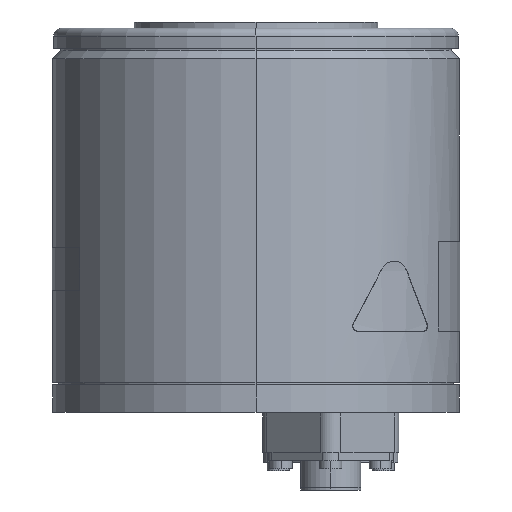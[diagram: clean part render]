
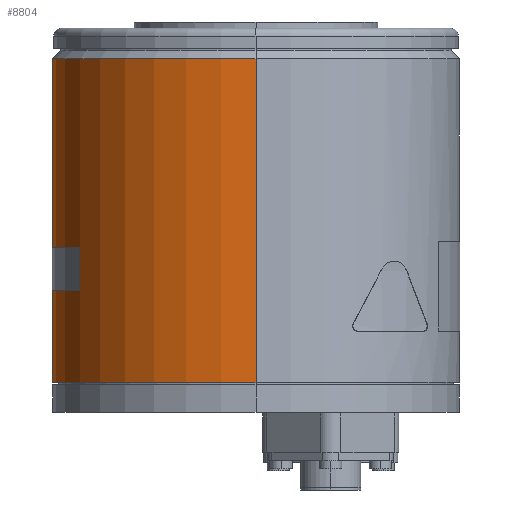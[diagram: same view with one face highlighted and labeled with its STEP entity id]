
A CAD part, left-side view. The second image highlights one B-rep face of the part: STEP entity #8804.
In plain terms, the highlighted cylindrical face has radius 50 mm (diameter 100 mm), a partial arc.
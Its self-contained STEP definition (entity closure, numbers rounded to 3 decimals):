
#37 = AXIS2_PLACEMENT_3D ( 'NONE', #5570, #5727, #5726 ) ;
#44 = EDGE_CURVE ( 'NONE', #5723, #5630, #504, .T. ) ;
#504 = CIRCLE ( 'NONE', #37, 50. ) ;
#590 = EDGE_LOOP ( 'NONE', ( #8637, #8638, #8639, #8635 ) ) ;
#593 = EDGE_LOOP ( 'NONE', ( #8641, #8642, #8640, #8636 ) ) ;
#1679 = DIRECTION ( 'NONE',  ( 0., 0., -1. ) ) ;
#1759 = CARTESIAN_POINT ( 'NONE',  ( 25., 43.301, 0. ) ) ;
#3077 = DIRECTION ( 'NONE',  ( 1., 0., 0. ) ) ;
#3081 = CARTESIAN_POINT ( 'NONE',  ( 0., 0., 40.5 ) ) ;
#3085 = DIRECTION ( 'NONE',  ( 0., 0., -1. ) ) ;
#3254 = CARTESIAN_POINT ( 'NONE',  ( -25., 43.301, 30. ) ) ;
#3272 = CARTESIAN_POINT ( 'NONE',  ( 50., 0., 7.3 ) ) ;
#3296 = CARTESIAN_POINT ( 'NONE',  ( 25., 43.301, 40.5 ) ) ;
#3310 = CARTESIAN_POINT ( 'NONE',  ( 25., 43.301, 30. ) ) ;
#3387 = AXIS2_PLACEMENT_3D ( 'NONE', #7062, #7333, #7461 ) ;
#3395 = AXIS2_PLACEMENT_3D ( 'NONE', #9469, #9377, #9589 ) ;
#3412 = AXIS2_PLACEMENT_3D ( 'NONE', #3081, #3085, #3077 ) ;
#3423 = AXIS2_PLACEMENT_3D ( 'NONE', #7192, #7372, #7039 ) ;
#3497 = LINE ( 'NONE', #1759, #3511 ) ;
#3511 = VECTOR ( 'NONE', #1679, 1000. ) ;
#3620 = VECTOR ( 'NONE', #7323, 1000. ) ;
#3661 = LINE ( 'NONE', #7100, #3620 ) ;
#3710 = VECTOR ( 'NONE', #7446, 1000. ) ;
#3744 = LINE ( 'NONE', #7362, #3710 ) ;
#3774 = CIRCLE ( 'NONE', #3387, 50. ) ;
#3782 = VECTOR ( 'NONE', #7397, 1000. ) ;
#3809 = LINE ( 'NONE', #7417, #3782 ) ;
#4082 = EDGE_CURVE ( 'NONE', #5587, #5515, #3497, .T. ) ;
#4170 = EDGE_CURVE ( 'NONE', #5630, #5563, #3661, .T. ) ;
#4218 = EDGE_CURVE ( 'NONE', #5493, #5704, #3744, .T. ) ;
#4239 = EDGE_CURVE ( 'NONE', #5515, #5493, #3774, .T. ) ;
#4273 = EDGE_CURVE ( 'NONE', #5723, #5697, #3809, .T. ) ;
#4375 = EDGE_CURVE ( 'NONE', #5697, #5563, #4940, .T. ) ;
#4437 = EDGE_CURVE ( 'NONE', #5704, #5587, #5001, .T. ) ;
#4838 = CARTESIAN_POINT ( 'NONE',  ( -25., 43.301, 40.5 ) ) ;
#4842 = CARTESIAN_POINT ( 'NONE',  ( -50., 0., 87. ) ) ;
#4853 = CARTESIAN_POINT ( 'NONE',  ( -50., 0., 7.3 ) ) ;
#4861 = CARTESIAN_POINT ( 'NONE',  ( 50., 0., 87. ) ) ;
#4940 = CIRCLE ( 'NONE', #3423, 50. ) ;
#5001 = CIRCLE ( 'NONE', #3412, 50. ) ;
#5493 = VERTEX_POINT ( 'NONE', #3254 ) ;
#5515 = VERTEX_POINT ( 'NONE', #3310 ) ;
#5563 = VERTEX_POINT ( 'NONE', #3272 ) ;
#5570 = CARTESIAN_POINT ( 'NONE',  ( 0., 0., 87. ) ) ;
#5587 = VERTEX_POINT ( 'NONE', #3296 ) ;
#5630 = VERTEX_POINT ( 'NONE', #4861 ) ;
#5697 = VERTEX_POINT ( 'NONE', #4853 ) ;
#5704 = VERTEX_POINT ( 'NONE', #4838 ) ;
#5723 = VERTEX_POINT ( 'NONE', #4842 ) ;
#5726 = DIRECTION ( 'NONE',  ( -1., 0., 0. ) ) ;
#5727 = DIRECTION ( 'NONE',  ( 0., 0., -1. ) ) ;
#6541 = FACE_BOUND ( 'NONE', #593, .T. ) ;
#6543 = CYLINDRICAL_SURFACE ( 'NONE', #3395, 50. ) ;
#6549 = FACE_OUTER_BOUND ( 'NONE', #590, .T. ) ;
#7039 = DIRECTION ( 'NONE',  ( -1., 0., 0. ) ) ;
#7062 = CARTESIAN_POINT ( 'NONE',  ( 0., 0., 30. ) ) ;
#7100 = CARTESIAN_POINT ( 'NONE',  ( 50., 0., 0. ) ) ;
#7192 = CARTESIAN_POINT ( 'NONE',  ( 0., 0., 7.3 ) ) ;
#7323 = DIRECTION ( 'NONE',  ( 0., 0., -1. ) ) ;
#7333 = DIRECTION ( 'NONE',  ( 0., 0., 1. ) ) ;
#7362 = CARTESIAN_POINT ( 'NONE',  ( -25., 43.301, 0. ) ) ;
#7372 = DIRECTION ( 'NONE',  ( 0., 0., -1. ) ) ;
#7397 = DIRECTION ( 'NONE',  ( 0., 0., -1. ) ) ;
#7417 = CARTESIAN_POINT ( 'NONE',  ( -50., 0., 0. ) ) ;
#7446 = DIRECTION ( 'NONE',  ( 0., 0., 1. ) ) ;
#7461 = DIRECTION ( 'NONE',  ( -1., 0., 0. ) ) ;
#8635 = ORIENTED_EDGE ( 'NONE', *, *, #4273, .F. ) ;
#8636 = ORIENTED_EDGE ( 'NONE', *, *, #4437, .F. ) ;
#8637 = ORIENTED_EDGE ( 'NONE', *, *, #44, .T. ) ;
#8638 = ORIENTED_EDGE ( 'NONE', *, *, #4170, .T. ) ;
#8639 = ORIENTED_EDGE ( 'NONE', *, *, #4375, .F. ) ;
#8640 = ORIENTED_EDGE ( 'NONE', *, *, #4082, .F. ) ;
#8641 = ORIENTED_EDGE ( 'NONE', *, *, #4218, .F. ) ;
#8642 = ORIENTED_EDGE ( 'NONE', *, *, #4239, .F. ) ;
#8804 = ADVANCED_FACE ( 'NONE', ( #6541, #6549 ), #6543, .T. ) ;
#9377 = DIRECTION ( 'NONE',  ( 0., 0., -1. ) ) ;
#9469 = CARTESIAN_POINT ( 'NONE',  ( 0., 0., 0. ) ) ;
#9589 = DIRECTION ( 'NONE',  ( -1., 0., 0. ) ) ;
